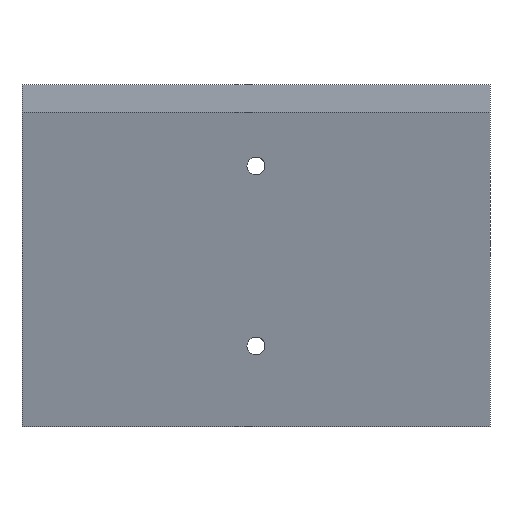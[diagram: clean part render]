
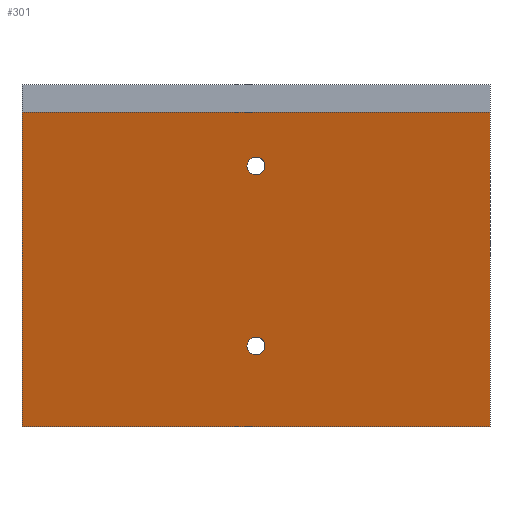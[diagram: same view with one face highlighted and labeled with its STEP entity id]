
A CAD part, front view. The second image highlights one B-rep face of the part: STEP entity #301.
In plain terms, the highlighted planar face has unit normal (0, -0.974, -0.227).
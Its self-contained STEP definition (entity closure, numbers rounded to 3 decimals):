
#32 = PLANE('',#33);
#33 = AXIS2_PLACEMENT_3D('',#34,#35,#36);
#34 = CARTESIAN_POINT('',(26.,-21.84,-64.));
#35 = DIRECTION('',(0.,0.,1.));
#36 = DIRECTION('',(0.,-1.,0.));
#57 = VERTEX_POINT('',#58);
#58 = CARTESIAN_POINT('',(-26.,-24.04,-64.));
#72 = PLANE('',#73);
#73 = AXIS2_PLACEMENT_3D('',#74,#75,#76);
#74 = CARTESIAN_POINT('',(-26.,-27.209,-45.063));
#75 = DIRECTION('',(-1.,0.,0.));
#76 = DIRECTION('',(0.,0.,1.));
#84 = EDGE_CURVE('',#85,#57,#87,.T.);
#85 = VERTEX_POINT('',#86);
#86 = CARTESIAN_POINT('',(26.,-24.04,-64.));
#87 = SURFACE_CURVE('',#88,(#92,#99),.PCURVE_S1.);
#88 = LINE('',#89,#90);
#89 = CARTESIAN_POINT('',(26.,-24.04,-64.));
#90 = VECTOR('',#91,1.);
#91 = DIRECTION('',(-1.,0.,0.));
#92 = PCURVE('',#32,#93);
#93 = DEFINITIONAL_REPRESENTATION('',(#94),#98);
#94 = LINE('',#95,#96);
#95 = CARTESIAN_POINT('',(2.2,0.));
#96 = VECTOR('',#97,1.);
#97 = DIRECTION('',(0.,-1.));
#98 = ( GEOMETRIC_REPRESENTATION_CONTEXT(2) 
PARAMETRIC_REPRESENTATION_CONTEXT() REPRESENTATION_CONTEXT('2D SPACE',''
  ) );
#99 = PCURVE('',#100,#105);
#100 = PLANE('',#101);
#101 = AXIS2_PLACEMENT_3D('',#102,#103,#104);
#102 = CARTESIAN_POINT('',(26.,-24.04,-64.));
#103 = DIRECTION('',(0.,0.974,0.227));
#104 = DIRECTION('',(0.,-0.227,0.974)
  );
#105 = DEFINITIONAL_REPRESENTATION('',(#106),#110);
#106 = LINE('',#107,#108);
#107 = CARTESIAN_POINT('',(0.,0.));
#108 = VECTOR('',#109,1.);
#109 = DIRECTION('',(0.,-1.));
#110 = ( GEOMETRIC_REPRESENTATION_CONTEXT(2) 
PARAMETRIC_REPRESENTATION_CONTEXT() REPRESENTATION_CONTEXT('2D SPACE',''
  ) );
#126 = PLANE('',#127);
#127 = AXIS2_PLACEMENT_3D('',#128,#129,#130);
#128 = CARTESIAN_POINT('',(26.,-27.209,-45.063));
#129 = DIRECTION('',(-1.,0.,0.));
#130 = DIRECTION('',(0.,0.,1.));
#233 = CYLINDRICAL_SURFACE('',#234,1.);
#234 = AXIS2_PLACEMENT_3D('',#235,#236,#237);
#235 = CARTESIAN_POINT('',(0.,-20.84,-35.));
#236 = DIRECTION('',(0.,1.,0.));
#237 = DIRECTION('',(-1.,0.,0.));
#277 = CYLINDRICAL_SURFACE('',#278,1.);
#278 = AXIS2_PLACEMENT_3D('',#279,#280,#281);
#279 = CARTESIAN_POINT('',(0.,-20.84,-55.));
#280 = DIRECTION('',(0.,1.,0.));
#281 = DIRECTION('',(-1.,0.,0.));
#301 = ADVANCED_FACE('',(#302,#377,#416),#100,.F.);
#302 = FACE_BOUND('',#303,.F.);
#303 = EDGE_LOOP('',(#304,#305,#328,#356));
#304 = ORIENTED_EDGE('',*,*,#84,.T.);
#305 = ORIENTED_EDGE('',*,*,#306,.T.);
#306 = EDGE_CURVE('',#57,#307,#309,.T.);
#307 = VERTEX_POINT('',#308);
#308 = CARTESIAN_POINT('',(-26.,-32.2,-29.));
#309 = SURFACE_CURVE('',#310,(#314,#321),.PCURVE_S1.);
#310 = LINE('',#311,#312);
#311 = CARTESIAN_POINT('',(-26.,-24.04,-64.));
#312 = VECTOR('',#313,1.);
#313 = DIRECTION('',(0.,-0.227,0.974)
  );
#314 = PCURVE('',#100,#315);
#315 = DEFINITIONAL_REPRESENTATION('',(#316),#320);
#316 = LINE('',#317,#318);
#317 = CARTESIAN_POINT('',(0.,-52.));
#318 = VECTOR('',#319,1.);
#319 = DIRECTION('',(1.,0.));
#320 = ( GEOMETRIC_REPRESENTATION_CONTEXT(2) 
PARAMETRIC_REPRESENTATION_CONTEXT() REPRESENTATION_CONTEXT('2D SPACE',''
  ) );
#321 = PCURVE('',#72,#322);
#322 = DEFINITIONAL_REPRESENTATION('',(#323),#327);
#323 = LINE('',#324,#325);
#324 = CARTESIAN_POINT('',(-18.937,3.169));
#325 = VECTOR('',#326,1.);
#326 = DIRECTION('',(0.974,-0.227));
#327 = ( GEOMETRIC_REPRESENTATION_CONTEXT(2) 
PARAMETRIC_REPRESENTATION_CONTEXT() REPRESENTATION_CONTEXT('2D SPACE',''
  ) );
#328 = ORIENTED_EDGE('',*,*,#329,.F.);
#329 = EDGE_CURVE('',#330,#307,#332,.T.);
#330 = VERTEX_POINT('',#331);
#331 = CARTESIAN_POINT('',(26.,-32.2,-29.));
#332 = SURFACE_CURVE('',#333,(#337,#344),.PCURVE_S1.);
#333 = LINE('',#334,#335);
#334 = CARTESIAN_POINT('',(26.,-32.2,-29.));
#335 = VECTOR('',#336,1.);
#336 = DIRECTION('',(-1.,0.,0.));
#337 = PCURVE('',#100,#338);
#338 = DEFINITIONAL_REPRESENTATION('',(#339),#343);
#339 = LINE('',#340,#341);
#340 = CARTESIAN_POINT('',(35.939,0.));
#341 = VECTOR('',#342,1.);
#342 = DIRECTION('',(0.,-1.));
#343 = ( GEOMETRIC_REPRESENTATION_CONTEXT(2) 
PARAMETRIC_REPRESENTATION_CONTEXT() REPRESENTATION_CONTEXT('2D SPACE',''
  ) );
#344 = PCURVE('',#345,#350);
#345 = PLANE('',#346);
#346 = AXIS2_PLACEMENT_3D('',#347,#348,#349);
#347 = CARTESIAN_POINT('',(26.,-32.2,-29.));
#348 = DIRECTION('',(0.,1.,0.));
#349 = DIRECTION('',(0.,0.,1.));
#350 = DEFINITIONAL_REPRESENTATION('',(#351),#355);
#351 = LINE('',#352,#353);
#352 = CARTESIAN_POINT('',(0.,0.));
#353 = VECTOR('',#354,1.);
#354 = DIRECTION('',(0.,-1.));
#355 = ( GEOMETRIC_REPRESENTATION_CONTEXT(2) 
PARAMETRIC_REPRESENTATION_CONTEXT() REPRESENTATION_CONTEXT('2D SPACE',''
  ) );
#356 = ORIENTED_EDGE('',*,*,#357,.F.);
#357 = EDGE_CURVE('',#85,#330,#358,.T.);
#358 = SURFACE_CURVE('',#359,(#363,#370),.PCURVE_S1.);
#359 = LINE('',#360,#361);
#360 = CARTESIAN_POINT('',(26.,-24.04,-64.));
#361 = VECTOR('',#362,1.);
#362 = DIRECTION('',(0.,-0.227,0.974)
  );
#363 = PCURVE('',#100,#364);
#364 = DEFINITIONAL_REPRESENTATION('',(#365),#369);
#365 = LINE('',#366,#367);
#366 = CARTESIAN_POINT('',(0.,0.));
#367 = VECTOR('',#368,1.);
#368 = DIRECTION('',(1.,0.));
#369 = ( GEOMETRIC_REPRESENTATION_CONTEXT(2) 
PARAMETRIC_REPRESENTATION_CONTEXT() REPRESENTATION_CONTEXT('2D SPACE',''
  ) );
#370 = PCURVE('',#126,#371);
#371 = DEFINITIONAL_REPRESENTATION('',(#372),#376);
#372 = LINE('',#373,#374);
#373 = CARTESIAN_POINT('',(-18.937,3.169));
#374 = VECTOR('',#375,1.);
#375 = DIRECTION('',(0.974,-0.227));
#376 = ( GEOMETRIC_REPRESENTATION_CONTEXT(2) 
PARAMETRIC_REPRESENTATION_CONTEXT() REPRESENTATION_CONTEXT('2D SPACE',''
  ) );
#377 = FACE_BOUND('',#378,.F.);
#378 = EDGE_LOOP('',(#379));
#379 = ORIENTED_EDGE('',*,*,#380,.F.);
#380 = EDGE_CURVE('',#381,#381,#383,.T.);
#381 = VERTEX_POINT('',#382);
#382 = CARTESIAN_POINT('',(-1.,-26.138,-55.));
#383 = SURFACE_CURVE('',#384,(#389,#396),.PCURVE_S1.);
#384 = ELLIPSE('',#385,1.027,1.);
#385 = AXIS2_PLACEMENT_3D('',#386,#387,#388);
#386 = CARTESIAN_POINT('',(0.,-26.138,-55.));
#387 = DIRECTION('',(0.,0.974,0.227));
#388 = DIRECTION('',(0.,0.227,-0.974)
  );
#389 = PCURVE('',#100,#390);
#390 = DEFINITIONAL_REPRESENTATION('',(#391),#395);
#391 = ELLIPSE('',#392,1.027,1.);
#392 = AXIS2_PLACEMENT_2D('',#393,#394);
#393 = CARTESIAN_POINT('',(9.241,-26.));
#394 = DIRECTION('',(-1.,0.));
#395 = ( GEOMETRIC_REPRESENTATION_CONTEXT(2) 
PARAMETRIC_REPRESENTATION_CONTEXT() REPRESENTATION_CONTEXT('2D SPACE',''
  ) );
#396 = PCURVE('',#277,#397);
#397 = DEFINITIONAL_REPRESENTATION('',(#398),#415);
#398 = B_SPLINE_CURVE_WITH_KNOTS('',8,(#399,#400,#401,#402,#403,#404,
    #405,#406,#407,#408,#409,#410,#411,#412,#413,#414),.UNSPECIFIED.,.F.
  ,.F.,(9,7,9),(1.571,4.712,7.854),
  .UNSPECIFIED.);
#399 = CARTESIAN_POINT('',(-6.283,-5.298));
#400 = CARTESIAN_POINT('',(-5.89,-5.39));
#401 = CARTESIAN_POINT('',(-5.498,-5.481));
#402 = CARTESIAN_POINT('',(-5.105,-5.551));
#403 = CARTESIAN_POINT('',(-4.712,-5.578));
#404 = CARTESIAN_POINT('',(-4.32,-5.551));
#405 = CARTESIAN_POINT('',(-3.927,-5.481));
#406 = CARTESIAN_POINT('',(-3.534,-5.39));
#407 = CARTESIAN_POINT('',(-2.749,-5.207));
#408 = CARTESIAN_POINT('',(-2.356,-5.115));
#409 = CARTESIAN_POINT('',(-1.963,-5.045));
#410 = CARTESIAN_POINT('',(-1.571,-5.018));
#411 = CARTESIAN_POINT('',(-1.178,-5.045));
#412 = CARTESIAN_POINT('',(-0.785,-5.115));
#413 = CARTESIAN_POINT('',(-0.393,-5.207));
#414 = CARTESIAN_POINT('',(0.,-5.298));
#415 = ( GEOMETRIC_REPRESENTATION_CONTEXT(2) 
PARAMETRIC_REPRESENTATION_CONTEXT() REPRESENTATION_CONTEXT('2D SPACE',''
  ) );
#416 = FACE_BOUND('',#417,.F.);
#417 = EDGE_LOOP('',(#418));
#418 = ORIENTED_EDGE('',*,*,#419,.F.);
#419 = EDGE_CURVE('',#420,#420,#422,.T.);
#420 = VERTEX_POINT('',#421);
#421 = CARTESIAN_POINT('',(-1.,-30.801,-35.));
#422 = SURFACE_CURVE('',#423,(#428,#435),.PCURVE_S1.);
#423 = ELLIPSE('',#424,1.027,1.);
#424 = AXIS2_PLACEMENT_3D('',#425,#426,#427);
#425 = CARTESIAN_POINT('',(0.,-30.801,-35.));
#426 = DIRECTION('',(0.,0.974,0.227));
#427 = DIRECTION('',(0.,0.227,-0.974)
  );
#428 = PCURVE('',#100,#429);
#429 = DEFINITIONAL_REPRESENTATION('',(#430),#434);
#430 = ELLIPSE('',#431,1.027,1.);
#431 = AXIS2_PLACEMENT_2D('',#432,#433);
#432 = CARTESIAN_POINT('',(29.778,-26.));
#433 = DIRECTION('',(-1.,0.));
#434 = ( GEOMETRIC_REPRESENTATION_CONTEXT(2) 
PARAMETRIC_REPRESENTATION_CONTEXT() REPRESENTATION_CONTEXT('2D SPACE',''
  ) );
#435 = PCURVE('',#233,#436);
#436 = DEFINITIONAL_REPRESENTATION('',(#437),#454);
#437 = B_SPLINE_CURVE_WITH_KNOTS('',8,(#438,#439,#440,#441,#442,#443,
    #444,#445,#446,#447,#448,#449,#450,#451,#452,#453),.UNSPECIFIED.,.F.
  ,.F.,(9,7,9),(1.571,4.712,7.854),
  .UNSPECIFIED.);
#438 = CARTESIAN_POINT('',(-6.283,-9.961));
#439 = CARTESIAN_POINT('',(-5.89,-10.053));
#440 = CARTESIAN_POINT('',(-5.498,-10.144));
#441 = CARTESIAN_POINT('',(-5.105,-10.214));
#442 = CARTESIAN_POINT('',(-4.712,-10.241));
#443 = CARTESIAN_POINT('',(-4.32,-10.214));
#444 = CARTESIAN_POINT('',(-3.927,-10.144));
#445 = CARTESIAN_POINT('',(-3.534,-10.053));
#446 = CARTESIAN_POINT('',(-2.749,-9.87));
#447 = CARTESIAN_POINT('',(-2.356,-9.778));
#448 = CARTESIAN_POINT('',(-1.963,-9.708));
#449 = CARTESIAN_POINT('',(-1.571,-9.681));
#450 = CARTESIAN_POINT('',(-1.178,-9.708));
#451 = CARTESIAN_POINT('',(-0.785,-9.778));
#452 = CARTESIAN_POINT('',(-0.393,-9.87));
#453 = CARTESIAN_POINT('',(0.,-9.961));
#454 = ( GEOMETRIC_REPRESENTATION_CONTEXT(2) 
PARAMETRIC_REPRESENTATION_CONTEXT() REPRESENTATION_CONTEXT('2D SPACE',''
  ) );
